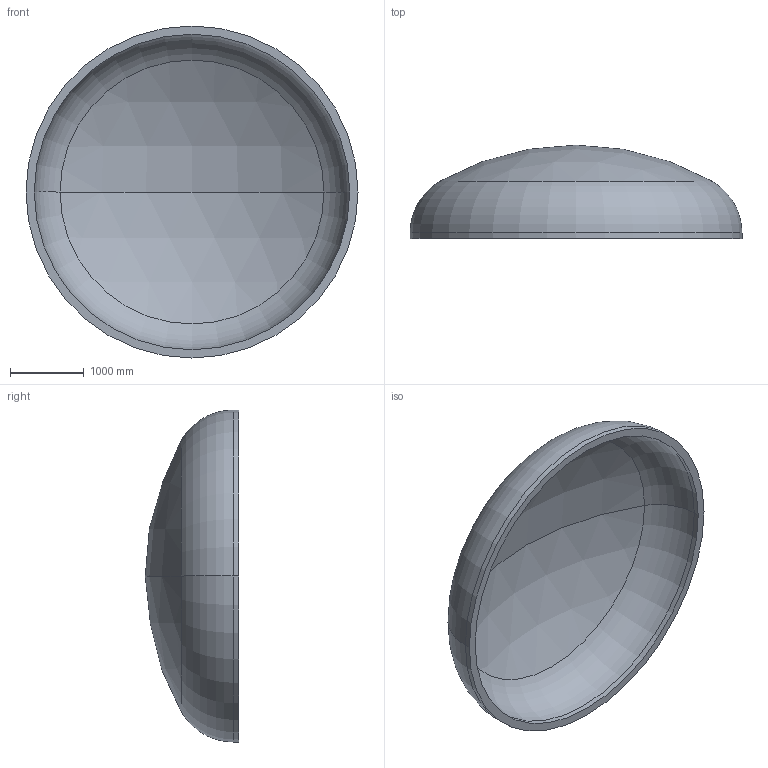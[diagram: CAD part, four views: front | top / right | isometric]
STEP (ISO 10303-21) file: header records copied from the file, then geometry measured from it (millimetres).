
FILE_DESCRIPTION (( 'STEP AP203' ), '1' );
FILE_NAME ('DIN 28013 Korbbogenform_-_Boden DIN 28013 - 4500 x 75 - I - s=112.step', '2016-07-01T23:55:58', ( '' ), ( '' ), 'SwSTEP 2.0', 'SolidWorks 2013', '' );
FILE_SCHEMA (( 'CONFIG_CONTROL_DESIGN' ));
Length unit declared in the file: millimetre
Products named in the file (1): DIN 28013 Korbbogenform_-_Boden DIN 28013 - 4500 x 75 - I - s=112
Bounding box: 4500 x 1265.74 x 4500 mm (x, y, z)
Volume: 2504981369.8 mm3; surface area: 46302021 mm2
Topology: 1 solids, 1 shells, 13 faces, 24 edges, 14 vertices
Faces by surface type: torus 4, cylinder 4, sphere 4, plane 1
Entity records: 407 total; most frequent: DIRECTION 72, CARTESIAN_POINT 52, ORIENTED_EDGE 48, AXIS2_PLACEMENT_3D 34, EDGE_CURVE 24, CIRCLE 20, EDGE_LOOP 14, VERTEX_POINT 14
